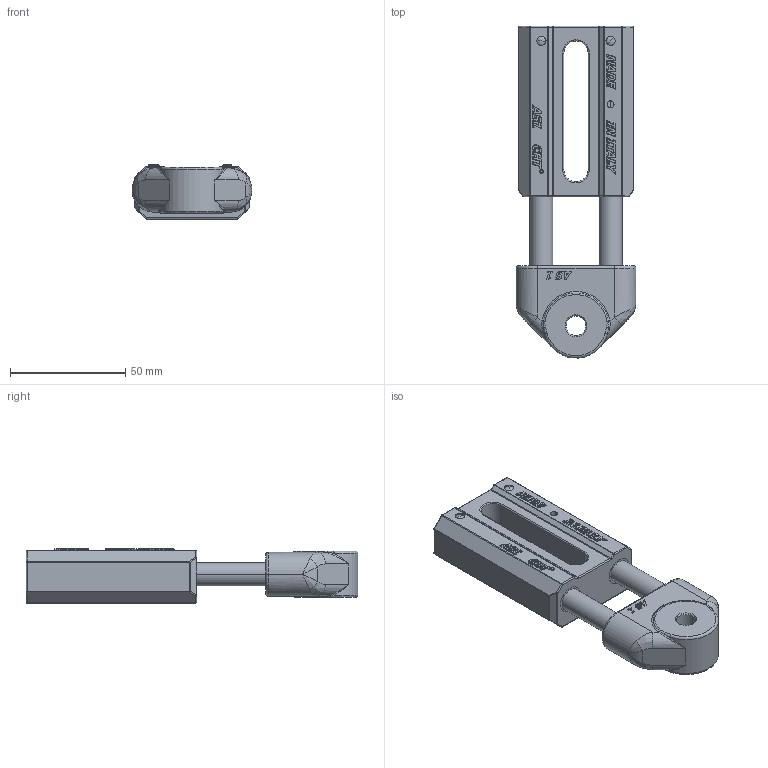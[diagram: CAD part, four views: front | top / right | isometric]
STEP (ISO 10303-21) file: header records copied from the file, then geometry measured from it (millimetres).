
FILE_DESCRIPTION (( 'STEP AP203' ), '1' );
FILE_NAME ('AS1 M10 cod. 94021010N.STEP', '2018-05-24T10:37:11', ( '' ), ( '' ), 'SwSTEP 2.0', 'SolidWorks 2016', '' );
FILE_SCHEMA (( 'CONFIG_CONTROL_DESIGN' ));
Length unit declared in the file: millimetre
Products named in the file (7): ISO 8745-M4x22-St_ISO 8745-M4x22-St; AS1 M10 cod. 94021010N; AS 1-Base; Ron. 5.3X15X1.2; Testa AS1 M10; Boccola 10-12-15; AS1-COL-AVP-comm.
Assembly tree (10 placements, depth 2):
  AS1 M10 cod. 94021010N
    AS 1-Base
    AS1-COL-AVP-comm.  x2
    Boccola 10-12-15  x2
    ISO 8745-M4x22-St_ISO 8745-M4x22-St  x2
    Ron. 5.3X15X1.2  x2
    Testa AS1 M10
Bounding box: 52 x 143.95 x 23.5 mm (x, y, z)
Volume: 83687 mm3; surface area: 36995.5 mm2
Topology: 10 solids, 10 shells, 794 faces, 1899 edges, 1111 vertices
Faces by surface type: cylinder 297, plane 269, bspline 130, torus 44, sphere 38, cone 16
Entity records: 26792 total; most frequent: CARTESIAN_POINT 10274, ORIENTED_EDGE 3504, DIRECTION 2884, EDGE_CURVE 1752, VERTEX_POINT 1041, LINE 964, VECTOR 964, AXIS2_PLACEMENT_3D 960
